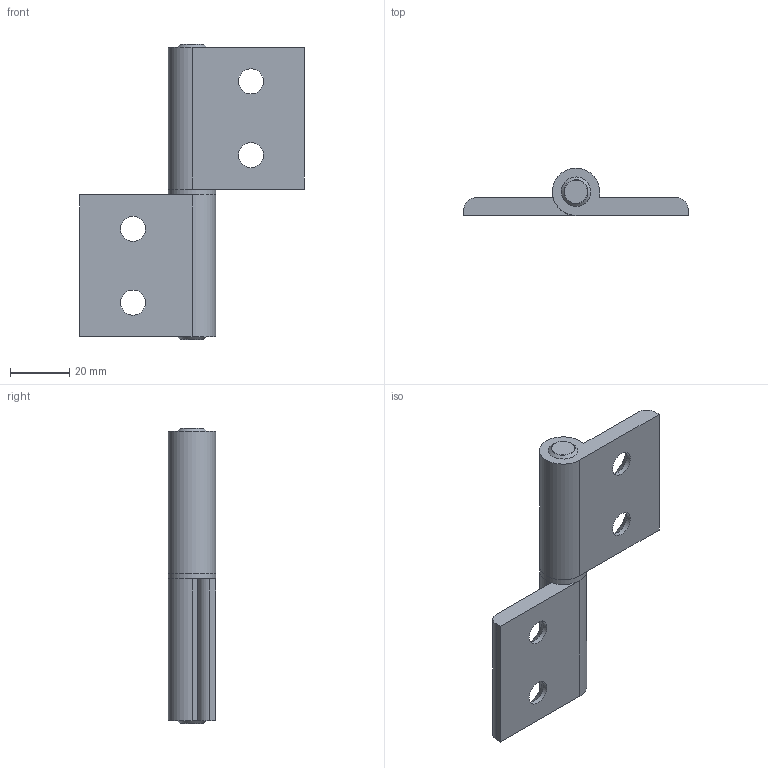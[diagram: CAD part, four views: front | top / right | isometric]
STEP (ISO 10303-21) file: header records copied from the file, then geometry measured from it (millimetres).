
FILE_DESCRIPTION(/* description */ ('Cerniera in Alluminio rimovibile parte DX profilo 40-40'),/* implementation_level */ '2;1');
FILE_NAME(/* name */ 'C:\Users\Stefan.Nesic\Desktop\01010STEP\HS40-40R.stp',/* time_stamp */ '2022-06-17T14:54:37+02:00',/* author */ ('USER'),/* organization */ ('Microsoft'),/* preprocessor_version */ 'ST-DEVELOPER v18.1',/* originating_system */ 'Autodesk Inventor 2021',/* authorisation */ '');
FILE_SCHEMA (('AUTOMOTIVE_DESIGN { 1 0 10303 214 3 1 1 }'));
Length unit declared in the file: millimetre
Products named in the file (1): HS40-40R
Bounding box: 76 x 16 x 100 mm (x, y, z)
Surface area: 12710.1 mm2 (no closed solid volume)
Topology: 0 solids, 5 shells, 33 faces, 75 edges, 50 vertices
Faces by surface type: plane 16, cylinder 9, cone 6, torus 2
Full cylindrical faces by diameter (mm): 8.5 x4, 16 x1
Entity records: 1015 total; most frequent: DIRECTION 179, CARTESIAN_POINT 159, ORIENTED_EDGE 142, EDGE_CURVE 75, AXIS2_PLACEMENT_3D 70, VERTEX_POINT 50, EDGE_LOOP 47, LINE 39
